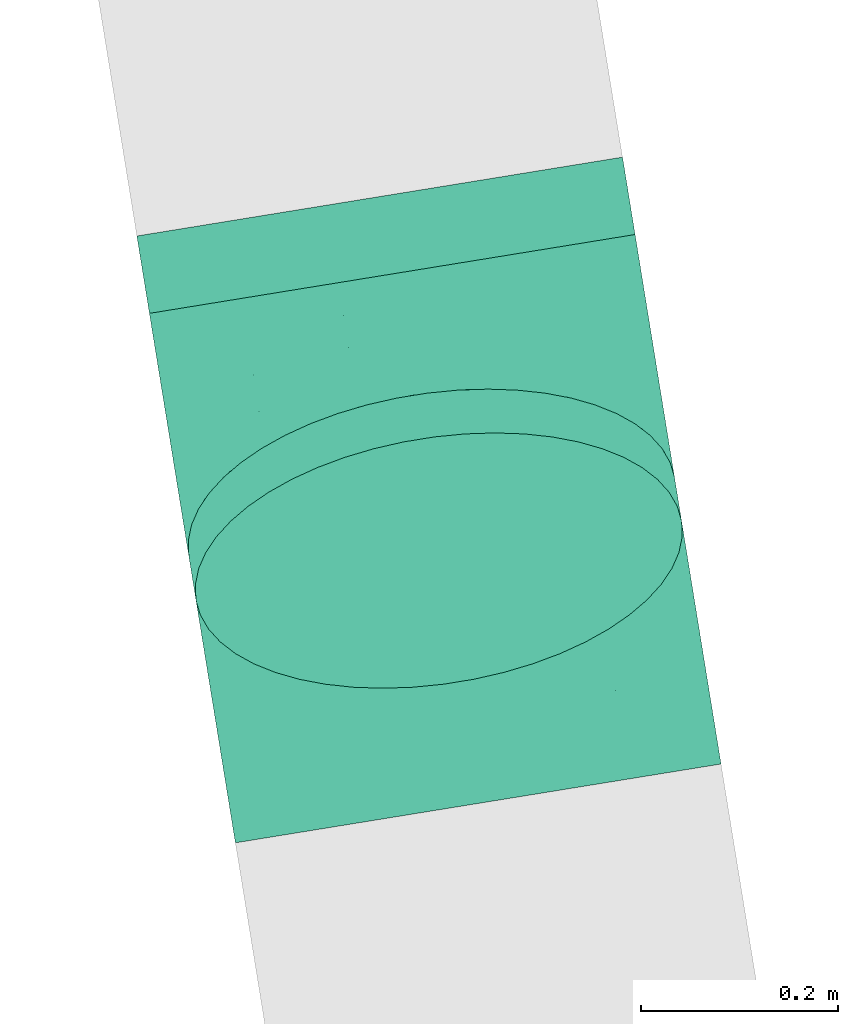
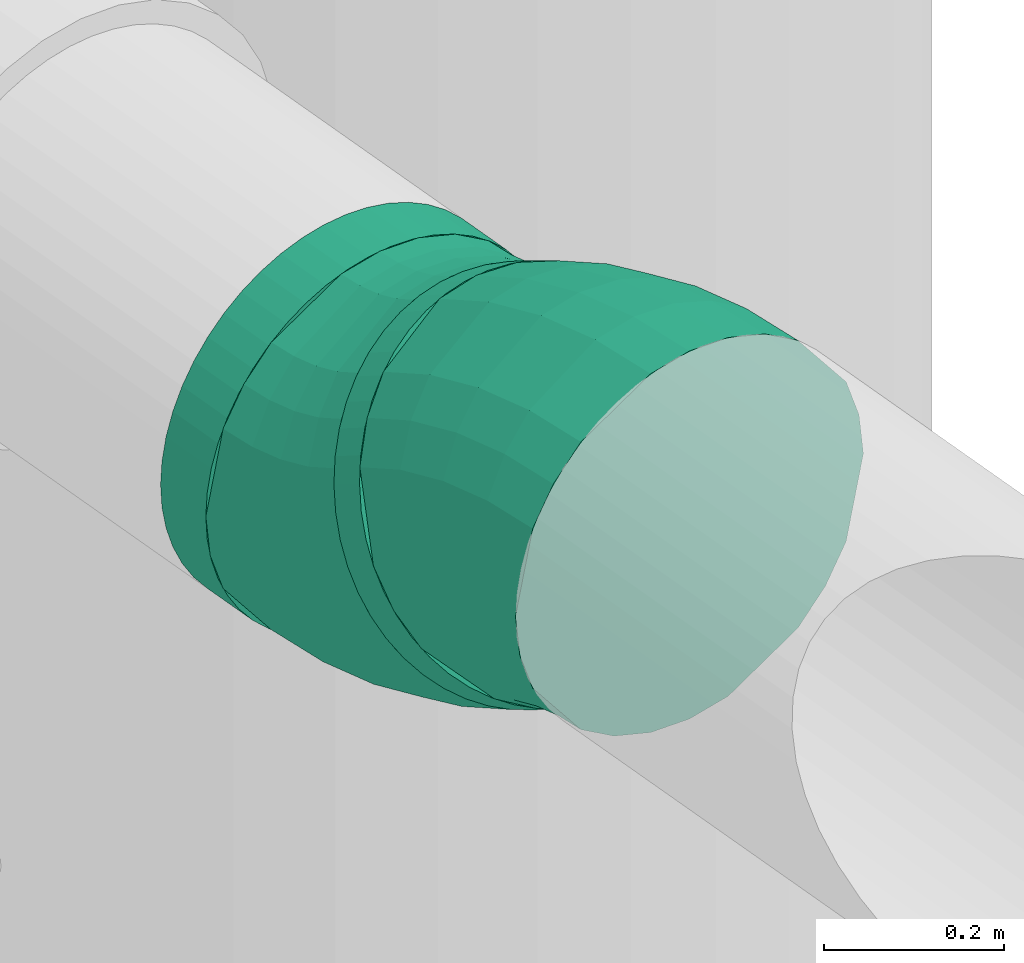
# One storey, part 16 of 39: 2 flow fittings, 2 flow segments.
"""IFC2X3 building model written with IfcOpenShell, lengths in millimetres."""

from ifc_helpers import new_model, entity, si_unit, converted_unit, derived_unit, direction, frame, frame_2d, origin, origin_with_axes, origin_2d_with_axis, place, context, subcontext, project, spatial, circle, extrude, faceted_brep, source, transform, mapped, material, type_object, element, save


model = new_model("IFC2X3")

# Units and contexts
model_context = context("Model", 3, precision=0.01, world=origin(), true_north=direction((6.12323399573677e-17, 1.0)))
plan_context = context("Plan", 3, precision=1e-05, world=origin_with_axes())
body_context = subcontext(model_context, "Body", "Model", "MODEL_VIEW")
ifc_project = project(units=[converted_unit("PLANEANGLEUNIT", "DEGREE", entity("IfcPositiveLengthMeasure", 0.0174532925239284), si_unit("PLANEANGLEUNIT", "RADIAN"), dimensions=[0, 0, 0, 0, 0, 0, 0]), si_unit("AREAUNIT", "SQUARE_METRE"), si_unit("LENGTHUNIT", "METRE", prefix="MILLI"), si_unit("MASSUNIT", "GRAM", prefix="KILO"), si_unit("POWERUNIT", "WATT"), si_unit("PRESSUREUNIT", "PASCAL", prefix="KILO"), si_unit("FORCEUNIT", "NEWTON", prefix="KILO"), si_unit("ELECTRICVOLTAGEUNIT", "VOLT"), si_unit("ELECTRICCURRENTUNIT", "AMPERE"), si_unit("THERMODYNAMICTEMPERATUREUNIT", "DEGREE_CELSIUS"), si_unit("TIMEUNIT", "SECOND"), si_unit("VOLUMEUNIT", "CUBIC_METRE"), derived_unit("LINEARVELOCITYUNIT", [(si_unit("LENGTHUNIT", "METRE"), 1), (si_unit("TIMEUNIT", "SECOND"), -1)]), derived_unit("VOLUMETRICFLOWRATEUNIT", [(si_unit("VOLUMEUNIT", "CUBIC_METRE"), 1), (si_unit("TIMEUNIT", "SECOND"), -1)]), derived_unit("THERMALTRANSMITTANCEUNIT", [(si_unit("POWERUNIT", "WATT"), 1), (si_unit("THERMODYNAMICTEMPERATUREUNIT", "KELVIN"), -1), (si_unit("AREAUNIT", "SQUARE_METRE"), -1)]), derived_unit("SOUNDPRESSUREUNIT", [(si_unit("PRESSUREUNIT", "PASCAL"), 1)])], contexts=[model_context, plan_context])

# Site, building, storey
site_placement = place(None, frame((-0.00071070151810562, 0.00438415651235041, 0.0), z_axis=(0.0, 0.0, 1.0), x_axis=(-0.160236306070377, 0.987078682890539, 0.0)))
site = spatial("IfcSite", under=ifc_project, at=site_placement, Name="Default", CompositionType="ELEMENT")
building_placement = place(site_placement, origin_with_axes())
building = spatial("IfcBuilding", under=site, at=building_placement, CompositionType="ELEMENT")
storey_placement = place(building_placement, frame((0.0, 0.0, 50999.9999999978), z_axis=(0.0, 0.0, 1.0), x_axis=(1.0, 0.0, 0.0)))
storey = spatial("IfcBuildingStorey", under=building, at=storey_placement, Name="Nivå D", CompositionType="ELEMENT", Elevation=50999.9999999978)

# Flow fittings
ifc_material = material(Name="<Unnamed>")
duct_fitting_type = type_object("IfcDuctFittingType", Name="magicirc_elbow_full_radius_1:magicirc_elbow_full_radius_001", PredefinedType="NOTDEFINED", material=ifc_material)
shared_shape = source(origin(), body_context, "Body", "Brep", [
    faceted_brep([(-36.0799520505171, -243.583646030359, 0.0), (-36.8980930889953, -237.369247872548, 55.6302334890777), (-133.974596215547, -243.731978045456, 55.6302334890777), (-133.974596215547, -250.0, 0.0), (-39.3114911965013, -219.037669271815, 108.470934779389), (-133.974596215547, -225.242216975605, 108.470934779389), (-43.1991285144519, -189.508132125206, 155.872450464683), (-133.974596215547, -195.457870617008, 155.872450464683), (-54.5532020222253, -103.265381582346, 225.242216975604), (-133.974596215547, -108.470934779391, 225.242216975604), (-61.4502975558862, -50.8767398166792, 243.731978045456), (-133.974596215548, -55.6302334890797, 243.731978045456), (-68.7115001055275, 4.27756931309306, 250.0), (-133.974596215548, 0.0, 250.0), (-82.8697981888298, 111.820520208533, 225.242216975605), (-133.974596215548, 108.470934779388, 225.242216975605), (-89.0569375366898, 158.816509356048, 195.457870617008), (-133.974596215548, 155.872450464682, 195.457870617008), (-94.2238716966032, 198.063270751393, 155.872450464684), (-133.974596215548, 195.457870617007, 155.872450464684), (-100.52490712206, 245.924386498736, 55.6302334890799), (-133.974596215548, 243.731978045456, 55.6302334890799), (-101.343048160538, 252.138784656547, 0.0), (-133.974596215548, 250.0, 0.0), (-100.52490712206, 245.924386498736, -55.6302334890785), (-133.974596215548, 243.731978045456, -55.6302334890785), (-98.1115090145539, 227.592807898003, -108.470934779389), (-133.974596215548, 225.242216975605, -108.470934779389), (-94.2238716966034, 198.063270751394, -155.872450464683), (-133.974596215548, 195.457870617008, -155.872450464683), (-82.86979818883, 111.820520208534, -225.242216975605), (-133.974596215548, 108.47093477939, -225.242216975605), (-75.972702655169, 59.4318784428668, -243.731978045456), (-133.974596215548, 55.6302334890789, -243.731978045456), (-68.7115001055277, 4.27756931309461, -250.0), (-133.974596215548, 0.0, -250.0), (-54.5532020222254, -103.265381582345, -225.242216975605), (-133.974596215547, -108.470934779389, -225.242216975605), (-48.3660626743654, -150.26137072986, -195.457870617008), (-133.974596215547, -155.872450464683, -195.457870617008), (-43.199128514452, -189.508132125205, -155.872450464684), (-133.974596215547, -195.457870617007, -155.872450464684), (-36.8980930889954, -237.369247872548, -55.6302334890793), (-133.974596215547, -243.731978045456, -55.6302334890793), (60.1396876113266, -224.444369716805, 0.0), (58.51740415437, -218.389925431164, 55.6302334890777), (53.7319018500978, -200.530187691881, 108.470934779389), (46.0231457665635, -171.760718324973, 155.872450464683), (23.5092700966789, -87.7377904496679, 225.242216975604), (9.83309024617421, -36.6975923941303, 243.731978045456), (-4.56507366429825, 17.0370868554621, 250.0), (-32.6394174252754, 121.811964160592, 225.242216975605), (-44.9078324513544, 167.598312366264, 195.457870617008), (-55.1532930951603, 205.834892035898, 155.872450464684), (-67.6475514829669, 252.46409914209, 55.6302334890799), (-69.2698349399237, 258.518543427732, 0.0), (-67.647551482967, 252.464099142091, -55.6302334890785), (-62.8620491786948, 234.604361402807, -108.470934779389), (-55.1532930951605, 205.834892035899, -155.872450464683), (-32.6394174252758, 121.811964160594, -225.242216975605), (-18.9632375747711, 70.7717661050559, -243.731978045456), (-4.56507366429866, 17.0370868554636, -250.0), (23.5092700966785, -87.7377904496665, -225.242216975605), (35.7776851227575, -133.524138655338, -195.457870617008), (46.0231457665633, -171.760718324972, -155.872450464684), (58.5174041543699, -218.389925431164, -55.6302334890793), (153.037978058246, -192.909649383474, 0.0), (150.639309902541, -187.11875219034, 55.6302334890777), (143.563584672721, -170.03644037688, 108.470934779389), (132.165608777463, -142.519292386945, 155.872450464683), (98.8771496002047, -62.1538427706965, 225.242216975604), (78.6558886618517, -13.335400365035, 243.731978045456), (57.3671199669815, 38.0602337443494, 250.0), (15.8570903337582, 138.274310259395, 225.242216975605), (-2.2826843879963, 182.067600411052, 195.457870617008), (-17.4313688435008, 218.639759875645, 155.872450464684), (-35.9050699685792, 263.23921967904, 55.6302334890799), (-38.3037381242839, 269.030116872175, 0.0), (-35.9050699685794, 263.239219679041, -55.6302334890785), (-28.8293447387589, 246.156907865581, -108.470934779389), (-17.4313688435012, 218.639759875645, -155.872450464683), (15.8570903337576, 138.274310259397, -225.242216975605), (36.0783512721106, 89.4558678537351, -243.731978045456), (57.3671199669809, 38.0602337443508, -250.0), (98.8771496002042, -62.1538427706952, -225.242216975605), (117.016924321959, -105.947132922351, -195.457870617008), (132.165608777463, -142.519292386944, -155.872450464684), (150.639309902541, -187.118752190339, -55.6302334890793), (241.025403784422, -149.519052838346, 0.0), (237.891392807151, -144.090786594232, 55.6302334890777), (228.646512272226, -128.078183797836, 108.470934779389), (213.754339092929, -102.284183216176, 155.872450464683), (170.260871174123, -26.95128698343, 225.242216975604), (143.84052052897, 18.8101026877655, 243.731978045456), (116.025403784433, 66.9872981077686, 250.0), (61.7899363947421, 160.925883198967, 225.242216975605), (38.0891785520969, 201.97679996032, 195.457870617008), (18.2964684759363, 236.258779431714, 155.872450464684), (-5.84058523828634, 278.065382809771, 55.6302334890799), (-8.97459621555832, 283.493649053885, 0.0), (-5.84058523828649, 278.065382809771, -55.6302334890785), (3.40429529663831, 262.052780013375, -108.470934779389), (18.2964684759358, 236.258779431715, -155.872450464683), (61.7899363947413, 160.925883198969, -225.242216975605), (88.2102870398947, 115.164493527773, -243.731978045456), (116.025403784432, 66.98729810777, -250.0), (170.260871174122, -26.9512869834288, -225.242216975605), (193.961629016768, -68.0022037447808, -195.457870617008), (213.754339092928, -102.284183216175, -155.872450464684), (237.891392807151, -144.090786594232, -55.6302334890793)], [[[0, 1, 2, 3]], [[1, 4, 5, 2]], [[4, 6, 7, 5]], [[6, 8, 9, 7]], [[8, 10, 11, 9]], [[10, 12, 13, 11]], [[12, 14, 15, 13]], [[14, 16, 17, 15]], [[16, 18, 19, 17]], [[18, 20, 21, 19]], [[20, 22, 23, 21]], [[22, 24, 25, 23]], [[24, 26, 27, 25]], [[26, 28, 29, 27]], [[28, 30, 31, 29]], [[30, 32, 33, 31]], [[32, 34, 35, 33]], [[34, 36, 37, 35]], [[36, 38, 39, 37]], [[38, 40, 41, 39]], [[40, 42, 43, 41]], [[42, 0, 3, 43]], [[44, 45, 1, 0]], [[45, 46, 4, 1]], [[46, 47, 6, 4]], [[47, 48, 8, 6]], [[48, 49, 10, 8]], [[49, 50, 12, 10]], [[50, 51, 14, 12]], [[51, 52, 16, 14]], [[52, 53, 18, 16]], [[53, 54, 20, 18]], [[54, 55, 22, 20]], [[55, 56, 24, 22]], [[56, 57, 26, 24]], [[57, 58, 28, 26]], [[58, 59, 30, 28]], [[59, 60, 32, 30]], [[60, 61, 34, 32]], [[61, 62, 36, 34]], [[62, 63, 38, 36]], [[63, 64, 40, 38]], [[64, 65, 42, 40]], [[65, 44, 0, 42]], [[66, 67, 45, 44]], [[67, 68, 46, 45]], [[68, 69, 47, 46]], [[69, 70, 48, 47]], [[70, 71, 49, 48]], [[71, 72, 50, 49]], [[72, 73, 51, 50]], [[73, 74, 52, 51]], [[74, 75, 53, 52]], [[75, 76, 54, 53]], [[76, 77, 55, 54]], [[77, 78, 56, 55]], [[78, 79, 57, 56]], [[79, 80, 58, 57]], [[80, 81, 59, 58]], [[81, 82, 60, 59]], [[82, 83, 61, 60]], [[83, 84, 62, 61]], [[84, 85, 63, 62]], [[85, 86, 64, 63]], [[86, 87, 65, 64]], [[87, 66, 44, 65]], [[88, 89, 67, 66]], [[89, 90, 68, 67]], [[90, 91, 69, 68]], [[91, 92, 70, 69]], [[92, 93, 71, 70]], [[93, 94, 72, 71]], [[94, 95, 73, 72]], [[95, 96, 74, 73]], [[96, 97, 75, 74]], [[97, 98, 76, 75]], [[98, 99, 77, 76]], [[99, 100, 78, 77]], [[100, 101, 79, 78]], [[101, 102, 80, 79]], [[102, 103, 81, 80]], [[103, 104, 82, 81]], [[104, 105, 83, 82]], [[105, 106, 84, 83]], [[106, 107, 85, 84]], [[107, 108, 86, 85]], [[108, 109, 87, 86]], [[109, 88, 66, 87]], [[3, 2, 5, 7, 9, 11, 13, 15, 17, 19, 21, 23, 25, 27, 29, 31, 33, 35, 37, 39, 41, 43]], [[109, 108, 107, 106, 105, 104, 103, 102, 101, 100, 99, 98, 97, 96, 95, 94, 93, 92, 91, 90, 89, 88]]]),
])
for number, where, z_axis, x_axis, name in (
    (1, (775083.736373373, -595037.180498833, 3150.0), (0.0, 1.0, 0.0), (-1.0, 0.0, 0.0), "magicirc_elbow_full_radius_1:magicirc_elbow_full_radius_001"),
    (2, (774806.608244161, -595037.180498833, 3310.0), (-2.40370335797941e-17, -1.0, 1.38777878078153e-17), (-0.866025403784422, 2.77555756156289e-17, 0.500000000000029), "magicirc_elbow_full_radius_1:magicirc_elbow_full_radius_001"),
):
    element("IfcFlowFitting", number, at=place(storey_placement, frame(where, z_axis=z_axis, x_axis=x_axis)), inside=storey, type_object=duct_fitting_type, material=ifc_material, Name=name, ObjectType="magicirc_elbow_full_radius_1:magicirc_elbow_full_radius_001", context=body_context, shape_type="MappedRepresentation", body=[
        mapped(shared_shape, transform((0.0, 0.0, 0.0), scale=1.0)),
    ])

# Flow segments
duct_segment_type = type_object("IfcDuctSegmentType", Name="Round Duct:KK001T - Spiro kanaler, Forsinket stål", PredefinedType="NOTDEFINED")
flow_segment_1_placement = place(storey_placement, origin_with_axes())
element("IfcFlowSegment", 3, at=flow_segment_1_placement, inside=storey, type_object=duct_segment_type, Name="Round Duct:KK001T - Spiro kanaler, Forsinket stål", ObjectType="Round Duct:KK001T - Spiro kanaler, Forsinket stål", context=body_context, shape_type="SweptSolid", body=[
    extrude(circle(Radius=250.0, at=origin_2d_with_axis()), frame((775217.710969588, -595037.180498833, 3150.0), z_axis=(1.0, 0.0, 0.0), x_axis=(0.0, -1.0, 0.0)), (0.0, 0.0, 1.0), 79.6586744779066),
])
flow_segment_2_placement = place(storey_placement, origin_with_axes())
element("IfcFlowSegment", 4, at=flow_segment_2_placement, inside=storey, type_object=duct_segment_type, Name="Round Duct:KK001T - Spiro kanaler, Forsinket stål", ObjectType="Round Duct:KK001T - Spiro kanaler, Forsinket stål", context=body_context, shape_type="SweptSolid", body=[
    extrude(circle(Radius=250.0, at=frame_2d((6.93034962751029e-11, -1.50046470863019e-11), x_axis=(1.0, 0.0))), frame((774967.710969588, -595037.180498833, 3216.98729810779), z_axis=(-0.866025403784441, 0.0, 0.499999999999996), x_axis=(0.0, 1.0, 0.0)), (0.0, 0.0, 1.0), 52.0508075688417),
])

save(model, "model.ifc")
